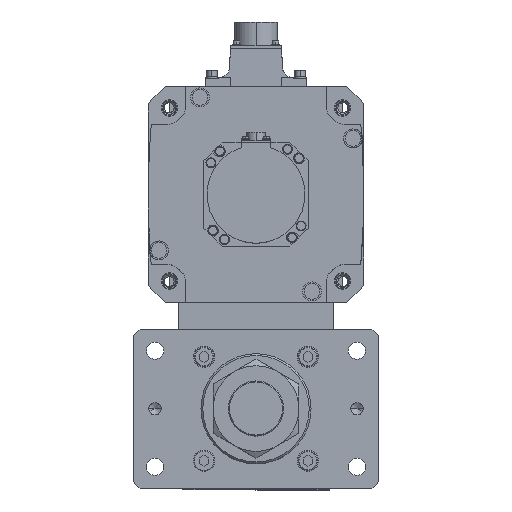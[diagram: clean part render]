
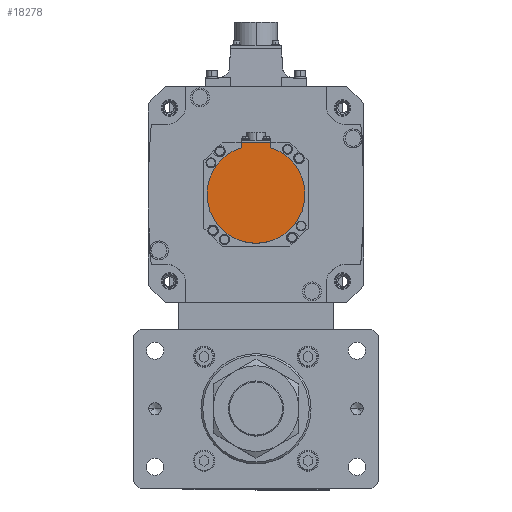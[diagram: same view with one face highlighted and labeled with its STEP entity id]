
A CAD part, top view. The second image highlights one B-rep face of the part: STEP entity #18278.
In plain terms, the highlighted planar face has unit normal (0, 0, 1) as drawn and (0, 0, -1) by its records, which use the part's own axes.
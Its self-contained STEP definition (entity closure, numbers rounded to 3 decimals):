
#2050 = CIRCLE ( 'NONE', #10301, 40. ) ;
#3380 = LINE ( 'NONE', #43091, #43037 ) ;
#3406 = DIRECTION ( 'NONE',  ( 0., 1., 0. ) ) ;
#4127 = DIRECTION ( 'NONE',  ( 0., 0., 1. ) ) ;
#5451 = AXIS2_PLACEMENT_3D ( 'NONE', #41052, #4127, #44698 ) ;
#5691 = CIRCLE ( 'NONE', #26882, 40. ) ;
#5923 = DIRECTION ( 'NONE',  ( 1., 0., 0. ) ) ;
#8217 = DIRECTION ( 'NONE',  ( 0., 0., 1. ) ) ;
#8669 = CARTESIAN_POINT ( 'NONE',  ( 12., -38.158, -138.5 ) ) ;
#8709 = PLANE ( 'NONE',  #5451 ) ;
#8929 = EDGE_CURVE ( 'NONE', #20081, #14733, #36391, .T. ) ;
#10223 = CARTESIAN_POINT ( 'NONE',  ( -12., -42.5, -138.5 ) ) ;
#10301 = AXIS2_PLACEMENT_3D ( 'NONE', #44216, #8217, #14938 ) ;
#13443 = LINE ( 'NONE', #19099, #43001 ) ;
#13584 = DIRECTION ( 'NONE',  ( 0., 0., 1. ) ) ;
#13788 = CARTESIAN_POINT ( 'NONE',  ( 40., 0., -138.5 ) ) ;
#14733 = VERTEX_POINT ( 'NONE', #29926 ) ;
#14938 = DIRECTION ( 'NONE',  ( 1., 0., 0. ) ) ;
#16530 = EDGE_LOOP ( 'NONE', ( #36334, #20216, #37545, #46257, #40130, #38188 ) ) ;
#17824 = DIRECTION ( 'NONE',  ( 1., 0., 0. ) ) ;
#18278 = ADVANCED_FACE ( 'NONE', ( #26130 ), #8709, .F. ) ;
#18633 = VERTEX_POINT ( 'NONE', #8669 ) ;
#19099 = CARTESIAN_POINT ( 'NONE',  ( -12., -40.329, -138.5 ) ) ;
#20081 = VERTEX_POINT ( 'NONE', #13788 ) ;
#20216 = ORIENTED_EDGE ( 'NONE', *, *, #47803, .F. ) ;
#20643 = VERTEX_POINT ( 'NONE', #10223 ) ;
#21218 = CARTESIAN_POINT ( 'NONE',  ( 0., -42.5, -138.5 ) ) ;
#22308 = DIRECTION ( 'NONE',  ( 0., 0., 1. ) ) ;
#22885 = VERTEX_POINT ( 'NONE', #45316 ) ;
#26130 = FACE_OUTER_BOUND ( 'NONE', #16530, .T. ) ;
#26882 = AXIS2_PLACEMENT_3D ( 'NONE', #37680, #13584, #17824 ) ;
#29926 = CARTESIAN_POINT ( 'NONE',  ( -40., 0., -138.5 ) ) ;
#34414 = EDGE_CURVE ( 'NONE', #20643, #22885, #13443, .T. ) ;
#35232 = EDGE_CURVE ( 'NONE', #18633, #20081, #2050, .T. ) ;
#36334 = ORIENTED_EDGE ( 'NONE', *, *, #34414, .T. ) ;
#36391 = CIRCLE ( 'NONE', #46179, 40. ) ;
#37545 = ORIENTED_EDGE ( 'NONE', *, *, #8929, .F. ) ;
#37680 = CARTESIAN_POINT ( 'NONE',  ( 0., 0., -138.5 ) ) ;
#37858 = EDGE_CURVE ( 'NONE', #51473, #20643, #51527, .T. ) ;
#38059 = DIRECTION ( 'NONE',  ( -1., 0., 0. ) ) ;
#38188 = ORIENTED_EDGE ( 'NONE', *, *, #37858, .T. ) ;
#40130 = ORIENTED_EDGE ( 'NONE', *, *, #45165, .F. ) ;
#40841 = VECTOR ( 'NONE', #38059, 1000. ) ;
#41052 = CARTESIAN_POINT ( 'NONE',  ( 0., -1.249, -138.5 ) ) ;
#42278 = CARTESIAN_POINT ( 'NONE',  ( 12., -42.5, -138.5 ) ) ;
#42306 = CARTESIAN_POINT ( 'NONE',  ( 0., 0., -138.5 ) ) ;
#43001 = VECTOR ( 'NONE', #3406, 1000. ) ;
#43037 = VECTOR ( 'NONE', #51355, 1000. ) ;
#43091 = CARTESIAN_POINT ( 'NONE',  ( 12., -1.249, -138.5 ) ) ;
#44216 = CARTESIAN_POINT ( 'NONE',  ( 0., 0., -138.5 ) ) ;
#44698 = DIRECTION ( 'NONE',  ( 1., 0., 0. ) ) ;
#45165 = EDGE_CURVE ( 'NONE', #51473, #18633, #3380, .T. ) ;
#45316 = CARTESIAN_POINT ( 'NONE',  ( -12., -38.158, -138.5 ) ) ;
#46179 = AXIS2_PLACEMENT_3D ( 'NONE', #42306, #22308, #5923 ) ;
#46257 = ORIENTED_EDGE ( 'NONE', *, *, #35232, .F. ) ;
#47803 = EDGE_CURVE ( 'NONE', #14733, #22885, #5691, .T. ) ;
#51355 = DIRECTION ( 'NONE',  ( 0., 1., 0. ) ) ;
#51473 = VERTEX_POINT ( 'NONE', #42278 ) ;
#51527 = LINE ( 'NONE', #21218, #40841 ) ;
